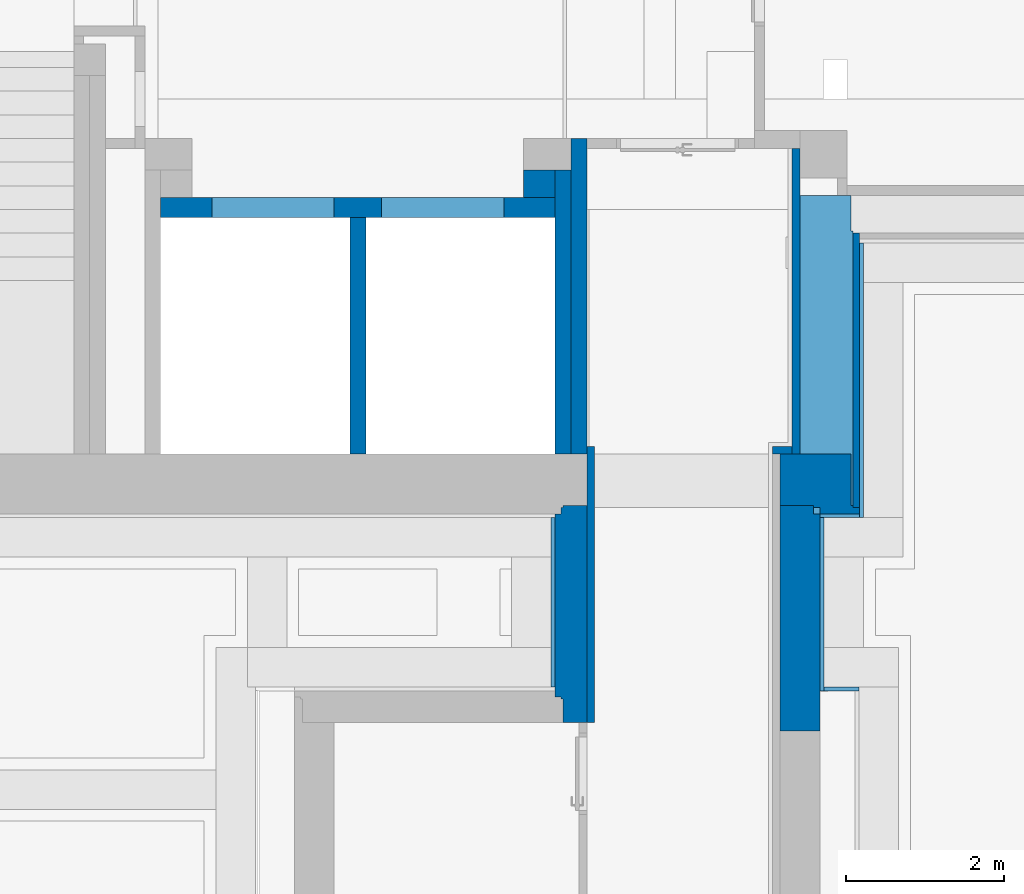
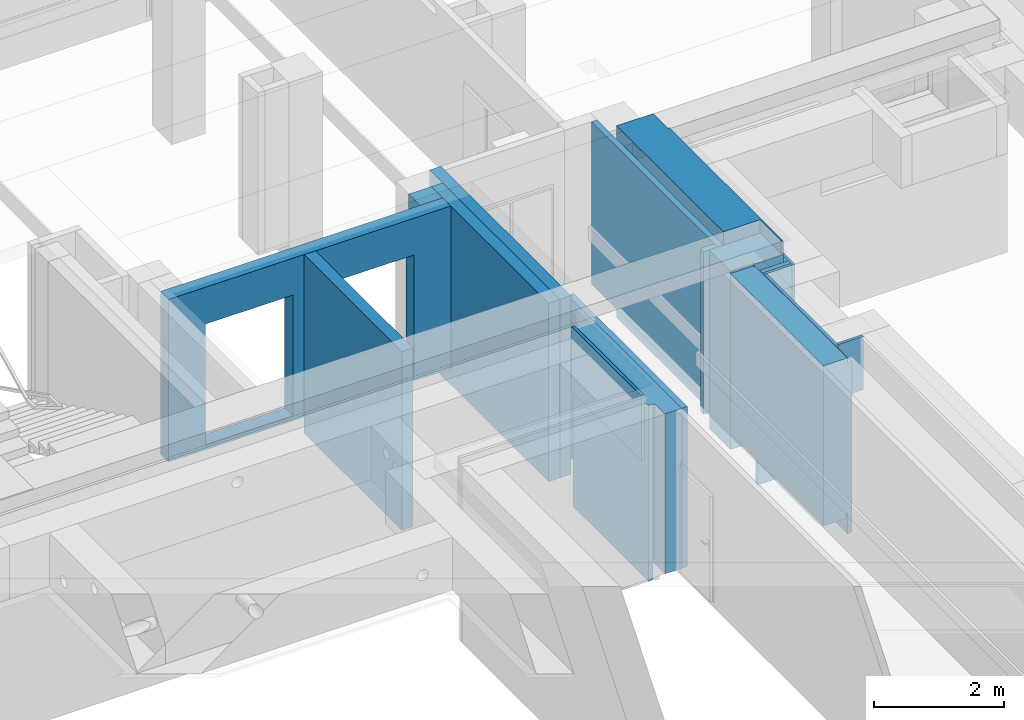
# One storey, part 18 of 84: 18 walls, 2 openings.
"""IFC4 building model written with IfcOpenShell, lengths in metres."""

from ifc_helpers import new_model, entity, si_unit, converted_unit, derived_unit, frame, frame_2d, origin, origin_with_axes, place, context, subcontext, project, spatial, polyline, rectangle, outline, extrude, clip, bounded_halfspace, material, layer, layer_set, layer_usage, element, save


model = new_model("IFC4")

# Units and contexts
model_context = context("Model", 3, precision=1e-05, world=origin())
body_context = subcontext(model_context, "Body", "Model", "MODEL_VIEW")
ifc_project = project(units=[si_unit("LENGTHUNIT", "METRE"), si_unit("AREAUNIT", "SQUARE_METRE"), si_unit("VOLUMEUNIT", "CUBIC_METRE"), si_unit("MASSUNIT", "GRAM", prefix="KILO"), converted_unit("PLANEANGLEUNIT", "DEGREE", entity("IfcPlaneAngleMeasure", 0.0174532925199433), si_unit("PLANEANGLEUNIT", "RADIAN"), dimensions=[0, 0, 0, 0, 0, 0, 0]), derived_unit("THERMALTRANSMITTANCEUNIT", [(si_unit("POWERUNIT", "WATT"), 1), (si_unit("THERMODYNAMICTEMPERATUREUNIT", "KELVIN"), -1), (si_unit("LENGTHUNIT", "METRE"), -2)]), derived_unit("VOLUMETRICFLOWRATEUNIT", [(si_unit("LENGTHUNIT", "METRE"), 3), (converted_unit("TIMEUNIT", "hour", entity("IfcTimeMeasure", 3600.0), si_unit("TIMEUNIT", "SECOND"), dimensions=[0, 0, 1, 0, 0, 0, 0]), -1), (si_unit("LENGTHUNIT", "METRE"), -1)])], contexts=[model_context])

# Site, building, storey
site_placement = place(None, origin())
site = spatial("IfcSite", under=ifc_project, at=site_placement, Name="3. ASŘ", CompositionType="ELEMENT")
building_placement = place(site_placement, origin())
building = spatial("IfcBuilding", under=site, at=building_placement, Name="Pavilon C", CompositionType="ELEMENT")
storey_placement = place(building_placement, frame((0.0, 0.0, -3.3)))
storey = spatial("IfcBuildingStorey", under=building, at=storey_placement, Name="Půdorys 1.PP", CompositionType="ELEMENT", Elevation=-3.3)

# Walls
ifc_material_1 = material(Name="ZELEZOBETONOVÁ KCE")
ifc_layer_1 = layer(ifc_material_1, 0.2)
ifc_layer_set_1 = layer_set([ifc_layer_1])
ifc_layer_usage_1 = layer_usage(ifc_layer_set_1, "AXIS2", "POSITIVE", 0.0)
wall_1_placement = place(storey_placement, frame((38.15, -3.8, -0.4), z_axis=(0.0, 0.0, 1.0), x_axis=(0.0, 1.0, 0.0)))
element("IfcWall", 1, at=wall_1_placement, inside=storey, material=ifc_layer_usage_1, Name="ZELEZOBETONOVÁ KCE", context=body_context, shape_type="SweptSolid", body=[
    extrude(rectangle(XDim=3.0, YDim=0.2, at=frame_2d((1.5, 0.1), x_axis=(1.0, 0.0))), origin_with_axes(), (0.0, 0.0, 1.0), 3.35),
])
ifc_material_2 = material(Name="ZDIVO Z CDm")
ifc_layer_2 = layer(ifc_material_2, 0.35)
ifc_layer_set_2 = layer_set([ifc_layer_2])
ifc_layer_usage_2 = layer_usage(ifc_layer_set_2, "AXIS2", "POSITIVE", 0.0)
wall_2_placement = place(storey_placement, frame((40.55, -0.200000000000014, -0.1), z_axis=(0.0, 0.0, 1.0), x_axis=(-1.0, 0.0, 0.0)))
element("IfcWall", 2, at=wall_2_placement, inside=storey, material=ifc_layer_usage_2, Name="ZDIVO Z CDm", context=body_context, shape_type="SweptSolid", body=[
    extrude(rectangle(XDim=0.4, YDim=0.35, at=frame_2d((0.2, 0.175), x_axis=(1.0, 0.0))), origin_with_axes(), (0.0, 0.0, 1.0), 3.05),
])

# Wall, openings
ifc_material_3 = material(Name="ZDIVO Z CDm")
ifc_layer_3 = layer(ifc_material_3, 0.25)
ifc_layer_set_3 = layer_set([ifc_layer_3])
ifc_layer_usage_3 = layer_usage(ifc_layer_set_3, "AXIS2", "POSITIVE", 0.0)
wall_3_placement = place(storey_placement, frame((40.55, -0.550000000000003, -0.1), z_axis=(0.0, 0.0, 1.0), x_axis=(-1.0, 0.0, 0.0)))
wall_3 = element("IfcWall", 3, at=wall_3_placement, inside=storey, material=ifc_layer_usage_3, Name="ZDIVO Z CDm", context=body_context, shape_type="SweptSolid", body=[
    extrude(rectangle(XDim=5.0, YDim=0.25, at=frame_2d((2.5, 0.125), x_axis=(1.0, 0.0))), origin_with_axes(), (0.0, 0.0, 1.0), 3.05),
])
opening_1_placement = place(wall_3_placement, frame((0.65, 0.0, 0.1), z_axis=(0.0, 1.0, 0.0), x_axis=(0.0, 0.0, 1.0)))
element("IfcOpeningElement", 4, at=opening_1_placement, cuts=wall_3, Name="Dveřní otvor", ObjectType="Opening", context=body_context, shape_type="SweptSolid", body=[
    extrude(outline(polyline([(0.0, 1.55), (2.26, 1.55), (2.26, 0.0), (0.0, 0.0), (0.0, 1.55)])), origin_with_axes(), (0.0, 0.0, 1.0), 0.25),
])
opening_2_placement = place(wall_3_placement, frame((2.8, 0.0, 0.1), z_axis=(0.0, 1.0, 0.0), x_axis=(0.0, 0.0, 1.0)))
element("IfcOpeningElement", 5, at=opening_2_placement, cuts=wall_3, Name="Dveřní otvor", ObjectType="Opening", context=body_context, shape_type="SweptSolid", body=[
    extrude(outline(polyline([(0.0, 1.55), (2.26, 1.55), (2.26, 0.0), (0.0, 0.0), (0.0, 1.55)])), origin_with_axes(), (0.0, 0.0, 1.0), 0.25),
])

# Walls
ifc_material_4 = material(Name="ZELEZOBETONOVÁ KCE")
ifc_layer_4 = layer(ifc_material_4, 0.2)
ifc_layer_set_4 = layer_set([ifc_layer_4])
ifc_layer_usage_4 = layer_usage(ifc_layer_set_4, "AXIS2", "POSITIVE", 0.0)
wall_4_placement = place(storey_placement, frame((40.75, -3.8, -0.4), z_axis=(0.0, 0.0, 1.0), x_axis=(0.0, 1.0, 0.0)))
element("IfcWall", 6, at=wall_4_placement, inside=storey, material=ifc_layer_usage_4, Name="ZELEZOBETONOVÁ KCE", context=body_context, shape_type="SweptSolid", body=[
    extrude(rectangle(XDim=3.59999999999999, YDim=0.2, at=frame_2d((1.79999999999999, 0.1), x_axis=(1.0, 0.0))), origin_with_axes(), (0.0, 0.0, 1.0), 3.35),
])
ifc_material_5 = material(Name="ZELEZOBETONOVÁ KCE")
ifc_layer_5 = layer(ifc_material_5, 0.2)
ifc_layer_set_5 = layer_set([ifc_layer_5])
ifc_layer_usage_5 = layer_usage(ifc_layer_set_5, "AXIS2", "POSITIVE", 0.0)
wall_5_placement = place(storey_placement, frame((40.95, -3.8, -0.4), z_axis=(0.0, 0.0, 1.0), x_axis=(0.0, 1.0, 0.0)))
element("IfcWall", 7, at=wall_5_placement, inside=storey, material=ifc_layer_usage_5, Name="ZELEZOBETONOVÁ KCE", context=body_context, shape_type="SweptSolid", body=[
    extrude(rectangle(XDim=4.0, YDim=0.2, at=frame_2d((2.0, 0.1), x_axis=(1.0, 0.0))), origin_with_axes(), (0.0, 0.0, 1.0), 3.35),
])
ifc_material_6 = material(Name="PÓROBETONOVÉ ZDIVO")
ifc_layer_6 = layer(ifc_material_6, 0.1)
ifc_layer_set_6 = layer_set([ifc_layer_6])
ifc_layer_usage_6 = layer_usage(ifc_layer_set_6, "AXIS2", "POSITIVE", 0.0)
wall_6_placement = place(storey_placement, frame((43.55, 0.07499999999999, -0.1), z_axis=(0.0, 0.0, 1.0), x_axis=(0.0, -1.0, 0.0)))
element("IfcWall", 8, at=wall_6_placement, inside=storey, material=ifc_layer_usage_6, Name="PÓROBETONOVÉ ZDIVO", context=body_context, shape_type="SweptSolid", body=[
    extrude(rectangle(XDim=3.875, YDim=0.1, at=frame_2d((1.9375, 0.05), x_axis=(1.0, 0.0))), origin_with_axes(), (0.0, 0.0, 1.0), 3.05),
])
ifc_material_7 = material(Name="PÓROBETONOVÉ ZDIVO")
ifc_layer_7 = layer(ifc_material_7, 0.1)
ifc_layer_set_7 = layer_set([ifc_layer_7])
ifc_layer_usage_7 = layer_usage(ifc_layer_set_7, "AXIS2", "POSITIVE", 0.0)
wall_7_placement = place(storey_placement, frame((43.3, -3.80000000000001, -0.1)))
element("IfcWall", 9, at=wall_7_placement, inside=storey, material=ifc_layer_usage_7, Name="PÓROBETONOVÉ ZDIVO", context=body_context, shape_type="SweptSolid", body=[
    extrude(rectangle(XDim=0.25, YDim=0.1, at=frame_2d((0.125, 0.05), x_axis=(1.0, 0.0))), origin_with_axes(), (0.0, 0.0, 1.0), 3.05),
])
ifc_material_8 = material(Name="PÓROBETONOVÉ ZDIVO")
ifc_layer_8 = layer(ifc_material_8, 0.1)
ifc_layer_set_8 = layer_set([ifc_layer_8])
ifc_layer_usage_8 = layer_usage(ifc_layer_set_8, "AXIS2", "POSITIVE", 0.0)
wall_8_placement = place(storey_placement, frame((40.95, -3.70000000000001, -0.1), z_axis=(0.0, 0.0, 1.0), x_axis=(0.0, -1.0, 0.0)))
element("IfcWall", 10, at=wall_8_placement, inside=storey, material=ifc_layer_usage_8, Name="PÓROBETONOVÉ ZDIVO", context=body_context, shape_type="SweptSolid", body=[
    extrude(rectangle(XDim=3.50000000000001, YDim=0.1, at=frame_2d((1.75, 0.05), x_axis=(1.0, 0.0))), origin_with_axes(), (0.0, 0.0, 1.0), 3.0),
])
ifc_material_9 = material(Name="ZELEZOBETONOVÁ KCE")
ifc_layer_9 = layer(ifc_material_9, 0.3)
ifc_material_10 = material(Name="LIGNOPOR")
ifc_layer_10 = layer(ifc_material_10, 0.025)
ifc_material_11 = material(Name="PÓROBETONOVÉ ZDIVO")
ifc_layer_11 = layer(ifc_material_11, 0.08)
ifc_layer_set_9 = layer_set([ifc_layer_9, ifc_layer_10, ifc_layer_11])
ifc_layer_usage_9 = layer_usage(ifc_layer_set_9, "AXIS2", "POSITIVE", 0.0)
wall_9_placement = place(storey_placement, frame((40.95, -7.20000000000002, -0.4), z_axis=(0.0, 0.0, 1.0), x_axis=(0.0, 1.0, 0.0)))
element("IfcWall", 11, at=wall_9_placement, inside=storey, material=ifc_layer_usage_9, Name="ZELEZOBETONOVÁ KCE", context=body_context, shape_type="Clipping", body=[
    clip(clip(extrude(outline(polyline([(0.0, -0.405), (2.75000000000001, -0.405), (2.75000000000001, -0.105), (2.72500000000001, -0.105), (2.72500000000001, -0.08), (2.64500000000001, -0.08), (2.64500000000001, 0.0), (0.325, 0.0), (0.325, -0.08), (0.3, -0.08), (0.3, -0.105), (0.0, -0.105), (0.0, -0.405)])), frame((0.0, 0.405, 0.0), z_axis=(0.0, 0.0, 1.0), x_axis=(1.0, 0.0, 0.0)), (0.0, 0.0, 1.0), 3.3), bounded_halfspace(frame((1.37500000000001, 0.15, 0.3), z_axis=(0.0, 0.0, 1.0), x_axis=(0.0, -1.0, 0.0)), True, origin_with_axes(), polyline([(0.0, 0.3), (0.0, 0.0), (2.75000000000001, 0.0), (2.75000000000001, 0.3), (0.0, 0.3)]))), bounded_halfspace(frame((1.50333333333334, 0.316666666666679, 0.4), z_axis=(0.0, 0.0, 1.0), x_axis=(-1.0, 0.0, 0.0)), True, origin_with_axes(), polyline([(2.64500000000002, 0.325000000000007), (0.325, 0.325000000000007), (0.3, 0.325000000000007), (0.3, 0.300000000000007), (2.72500000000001, 0.300000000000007), (2.72500000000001, 0.325000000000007), (2.64500000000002, 0.325000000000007)]))),
])
ifc_material_12 = material(Name="ZELEZOBETONOVÁ KCE")
ifc_layer_12 = layer(ifc_material_12, 0.65)
ifc_material_13 = material(Name="LIGNOPOR")
ifc_layer_13 = layer(ifc_material_13, 0.025)
ifc_material_14 = material(Name="PÓROBETONOVÉ ZDIVO")
ifc_layer_14 = layer(ifc_material_14, 0.08)
ifc_layer_set_10 = layer_set([ifc_layer_12, ifc_layer_13, ifc_layer_14])
ifc_layer_usage_10 = layer_usage(ifc_layer_set_10, "AXIS2", "POSITIVE", 0.0)
wall_10_placement = place(storey_placement, frame((43.65, -0.520000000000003, -1.15), z_axis=(0.0, 0.0, 1.0), x_axis=(0.0, -1.0, 0.0)))
element("IfcWall", 12, at=wall_10_placement, inside=storey, material=ifc_layer_usage_10, Name="ZELEZOBETONOVÁ KCE", context=body_context, shape_type="Clipping", body=[
    clip(clip(clip(extrude(outline(polyline([(-3.95500000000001, 0.0), (-0.675, 0.0), (-0.675, 0.65), (-0.025, 0.65), (-0.025, 0.675), (0.0, 0.675), (0.0, 0.755), (-3.48000000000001, 0.755), (-3.48000000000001, 0.675), (-3.50500000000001, 0.675), (-3.50500000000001, 0.65), (-3.95500000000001, 0.65), (-3.95500000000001, 0.0)])), frame((3.95500000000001, 0.0, 0.0), z_axis=(0.0, 0.0, 1.0), x_axis=(1.0, 0.0, 0.0)), (0.0, 0.0, 1.0), 4.1), bounded_halfspace(frame((1.64, 0.325, 0.750000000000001), z_axis=(0.0, 0.0, 1.0), x_axis=(0.0, -1.0, 0.0)), True, origin_with_axes(), polyline([(2.27373675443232e-16, 0.65), (2.27373675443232e-16, 0.0), (3.28000000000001, 0.0), (3.28000000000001, 0.65), (2.27373675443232e-16, 0.65)]))), bounded_halfspace(frame((2.08583333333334, 0.662499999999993, 1.15), z_axis=(0.0, 0.0, 1.0), x_axis=(-1.0, 0.0, 0.0)), True, origin_with_axes(), polyline([(0.475, 0.675), (0.45, 0.675), (0.45, 0.65), (3.28000000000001, 0.65), (3.93000000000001, 0.65), (3.93000000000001, 0.675), (0.475, 0.675)]))), bounded_halfspace(frame((2.558, 0.706999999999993, 3.95), z_axis=(0.0, 0.0, -1.0), x_axis=(1.0, -2.91038304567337e-13, 0.0)), True, origin_with_axes(), polyline([(3.93000000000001, 0.675), (3.95500000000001, 0.674999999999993), (3.95500000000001, 0.754999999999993), (0.475, 0.754999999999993), (0.475, 0.674999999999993), (3.93000000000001, 0.675)]))),
])
ifc_material_15 = material(Name="ZELEZOBETONOVÁ KCE")
ifc_layer_15 = layer(ifc_material_15, 0.65)
ifc_material_16 = material(Name="LIGNOPOR")
ifc_layer_16 = layer(ifc_material_16, 0.025)
ifc_material_17 = material(Name="PÓROBETONOVÉ ZDIVO")
ifc_layer_17 = layer(ifc_material_17, 0.08)
ifc_layer_set_11 = layer_set([ifc_layer_15, ifc_layer_16, ifc_layer_17])
ifc_layer_usage_11 = layer_usage(ifc_layer_set_11, "AXIS2", "POSITIVE", 0.0)
wall_11_placement = place(storey_placement, frame((44.3, -3.80000000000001, -1.15), z_axis=(0.0, 0.0, 1.0), x_axis=(-1.0, 0.0, 0.0)))
element("IfcWall", 13, at=wall_11_placement, inside=storey, material=ifc_layer_usage_11, Name="ZELEZOBETONOVÁ KCE", context=body_context, shape_type="Clipping", body=[
    clip(clip(clip(clip(clip(extrude(outline(polyline([(-0.9, -0.755), (0.0, -0.755), (0.0, -0.105), (-0.4, -0.105), (-0.4, -0.08), (-0.425, -0.08), (-0.425, 0.0), (-1.005, 0.0), (-1.005, -0.08), (-0.925, -0.08), (-0.925, -0.105), (-0.9, -0.105), (-0.9, -0.755)])), frame((0.9, 0.755, 0.0), z_axis=(0.0, 0.0, 1.0), x_axis=(1.0, 0.0, 0.0)), (0.0, 0.0, 1.0), 4.1), bounded_halfspace(frame((0.45, 0.325, 0.750000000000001), z_axis=(0.0, 0.0, 1.0), x_axis=(0.0, -1.0, 0.0)), True, origin_with_axes(), polyline([(0.0, 0.65), (0.0, 0.0), (0.9, 0.0), (0.9, 0.65), (0.0, 0.65)]))), bounded_halfspace(frame((0.215833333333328, 0.6625, 1.15), z_axis=(0.0, 0.0, 1.0), x_axis=(-1.0, 0.0, 0.0)), True, origin_with_axes(), polyline([(0.394999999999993, 0.675), (-0.025, 0.675), (-0.025, 0.65), (0.0, 0.65), (0.474999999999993, 0.65), (0.474999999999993, 0.675), (0.394999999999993, 0.675)]))), bounded_halfspace(frame((0.487499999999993, 0.6625, 4.05), z_axis=(0.0, 0.0, 1.0), x_axis=(2.91038304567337e-13, 1.0, 0.0)), True, origin_with_axes(), polyline([(0.499999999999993, 0.65), (0.5, 0.675), (0.474999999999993, 0.675), (0.474999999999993, 0.65), (0.499999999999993, 0.65)]))), bounded_halfspace(frame((0.434999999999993, 0.715, 0.750000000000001), z_axis=(0.0, 0.0, -1.0), x_axis=(1.0, 0.0, 0.0)), True, origin_with_axes(), polyline([(0.394999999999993, 0.675), (0.474999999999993, 0.675), (0.474999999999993, 0.755), (0.394999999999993, 0.755), (0.394999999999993, 0.675)]))), bounded_halfspace(frame((0.110999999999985, 0.707, 3.95), z_axis=(0.0, -2.8421709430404e-15, -1.0), x_axis=(1.0, 0.0, -1.08273178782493e-15)), True, origin_with_axes(), polyline([(-0.025, 0.675), (0.394999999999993, 0.675), (0.394999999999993, 0.755), (-0.105000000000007, 0.755), (-0.105000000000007, 0.675), (-0.025, 0.675)]))),
])
ifc_material_18 = material(Name="ZELEZOBETONOVÁ KCE")
ifc_layer_18 = layer(ifc_material_18, 0.4)
ifc_material_19 = material(Name="LIGNOPOR")
ifc_layer_19 = layer(ifc_material_19, 0.025)
ifc_material_20 = material(Name="PÓROBETONOVÉ ZDIVO")
ifc_layer_20 = layer(ifc_material_20, 0.08)
ifc_layer_set_12 = layer_set([ifc_layer_18, ifc_layer_19, ifc_layer_20])
ifc_layer_usage_12 = layer_usage(ifc_layer_set_12, "AXIS2", "POSITIVE", 0.0)
wall_12_placement = place(storey_placement, frame((43.4, -4.45000000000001, -0.4), z_axis=(0.0, 0.0, 1.0), x_axis=(0.0, -1.0, 0.0)))
element("IfcWall", 14, at=wall_12_placement, inside=storey, material=ifc_layer_usage_12, Name="ZELEZOBETONOVÁ KCE", context=body_context, shape_type="Clipping", body=[
    clip(clip(clip(clip(extrude(rectangle(XDim=2.855, YDim=0.505, at=frame_2d((1.4275, 0.2525), x_axis=(1.0, 0.0))), origin_with_axes(), (0.0, 0.0, 1.0), 3.3), bounded_halfspace(frame((1.4275, 0.2, 0.3), z_axis=(0.0, 0.0, 1.0), x_axis=(0.0, -1.0, 0.0)), True, origin_with_axes(), polyline([(0.0, 0.4), (0.0, 0.0), (2.855, 0.0), (2.855, 0.4), (0.0, 0.4)]))), bounded_halfspace(frame((1.147, 0.415000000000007, 0.4), z_axis=(0.0, 0.0, 1.0), x_axis=(-1.0, 0.0, 0.0)), True, origin_with_axes(), polyline([(0.025, 0.425000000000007), (0.0, 0.425000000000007), (0.0, 0.4), (2.855, 0.4), (2.855, 0.425000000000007), (0.025, 0.425000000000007)]))), bounded_halfspace(frame((0.0125, 0.465000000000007, 0.4), z_axis=(0.0, 0.0, -1.0), x_axis=(-1.0, 0.0, 0.0)), True, origin_with_axes(), polyline([(0.025, 0.505000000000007), (0.0, 0.505000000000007), (0.0, 0.425000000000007), (0.025, 0.425000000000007), (0.025, 0.505000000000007)]))), bounded_halfspace(frame((1.44, 0.465000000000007, 3.2), z_axis=(0.0, 0.0, -1.0), x_axis=(0.0, -1.0, 0.0)), True, origin_with_axes(), polyline([(0.025, 0.505000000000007), (0.025, 0.425000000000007), (2.855, 0.425000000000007), (2.855, 0.505000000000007), (0.025, 0.505000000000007)]))),
])
ifc_material_21 = material(Name="ZELEZOBETONOVÁ KCE")
ifc_layer_21 = layer(ifc_material_21, 0.65)
ifc_material_22 = material(Name="LIGNOPOR")
ifc_layer_22 = layer(ifc_material_22, 0.025)
ifc_layer_set_13 = layer_set([ifc_layer_21, ifc_layer_22])
ifc_layer_usage_13 = layer_usage(ifc_layer_set_13, "AXIS2", "POSITIVE", 0.0)
wall_13_placement = place(storey_placement, frame((43.65, -0.520000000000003, 2.95), z_axis=(0.0, 0.0, 1.0), x_axis=(0.0, -1.0, 0.0)))
element("IfcWall", 15, at=wall_13_placement, inside=storey, material=ifc_layer_usage_13, context=body_context, shape_type="SweptSolid", body=[
    extrude(outline(polyline([(-3.93000000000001, 0.0), (-0.650000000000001, 0.0), (-0.650000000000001, 0.65), (0.0, 0.65), (0.0, 0.675), (-3.48000000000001, 0.675), (-3.48000000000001, 0.65), (-3.93000000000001, 0.65), (-3.93000000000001, 0.0)])), frame((3.93000000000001, 0.0, 0.0), z_axis=(0.0, 0.0, 1.0), x_axis=(1.0, 0.0, 0.0)), (0.0, 0.0, 1.0), 0.25),
])
ifc_material_23 = material(Name="PERIMETR")
ifc_layer_23 = layer(ifc_material_23, 0.05)
ifc_layer_set_14 = layer_set([ifc_layer_23])
ifc_layer_usage_14 = layer_usage(ifc_layer_set_14, "AXIS2", "POSITIVE", 0.0)
wall_14_placement = place(storey_placement, frame((40.495, -4.605, 1.8), z_axis=(0.0, 0.0, 1.0), x_axis=(0.0, -1.0, 0.0)))
element("IfcWall", 16, at=wall_14_placement, inside=storey, material=ifc_layer_usage_14, Name="PERIMETR", context=body_context, shape_type="SweptSolid", body=[
    extrude(rectangle(XDim=2.145, YDim=0.05, at=frame_2d((1.0725, 0.025), x_axis=(1.0, 0.0))), origin_with_axes(), (0.0, 0.0, 1.0), 1.22),
])
ifc_material_24 = material(Name="PERIMETR")
ifc_layer_24 = layer(ifc_material_24, 0.05)
ifc_layer_set_15 = layer_set([ifc_layer_24])
ifc_layer_usage_15 = layer_usage(ifc_layer_set_15, "AXIS2", "POSITIVE", 0.0)
wall_15_placement = place(storey_placement, frame((44.455, -4.60500000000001, 1.8), z_axis=(0.0, 0.0, 1.0), x_axis=(0.0, 1.0, 0.0)))
element("IfcWall", 17, at=wall_15_placement, inside=storey, material=ifc_layer_usage_15, Name="PERIMETR", context=body_context, shape_type="SweptSolid", body=[
    extrude(rectangle(XDim=3.48000000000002, YDim=0.05, at=frame_2d((1.74000000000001, 0.025), x_axis=(1.0, 0.0))), origin_with_axes(), (0.0, 0.0, 1.0), 1.0),
])
ifc_material_25 = material(Name="PERIMETR")
ifc_layer_25 = layer(ifc_material_25, 0.05)
ifc_layer_set_16 = layer_set([ifc_layer_25])
ifc_layer_usage_16 = layer_usage(ifc_layer_set_16, "AXIS2", "POSITIVE", 0.0)
wall_16_placement = place(storey_placement, frame((43.905, -4.60500000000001, 1.8)))
element("IfcWall", 18, at=wall_16_placement, inside=storey, material=ifc_layer_usage_16, Name="PERIMETR", context=body_context, shape_type="SweptSolid", body=[
    extrude(rectangle(XDim=0.5, YDim=0.05, at=frame_2d((0.25, 0.025), x_axis=(1.0, 0.0))), origin_with_axes(), (0.0, 0.0, 1.0), 1.0),
])
ifc_material_26 = material(Name="PERIMETR")
ifc_layer_26 = layer(ifc_material_26, 0.05)
ifc_layer_set_17 = layer_set([ifc_layer_26])
ifc_layer_usage_17 = layer_usage(ifc_layer_set_17, "AXIS2", "POSITIVE", 0.0)
wall_17_placement = place(storey_placement, frame((43.955, -6.80000000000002, 1.8), z_axis=(0.0, 0.0, 1.0), x_axis=(0.0, 1.0, 0.0)))
element("IfcWall", 19, at=wall_17_placement, inside=storey, material=ifc_layer_usage_17, Name="PERIMETR", context=body_context, shape_type="SweptSolid", body=[
    extrude(rectangle(XDim=2.19500000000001, YDim=0.05, at=frame_2d((1.0975, 0.025), x_axis=(1.0, 0.0))), origin_with_axes(), (0.0, 0.0, 1.0), 1.0),
])
ifc_material_27 = material(Name="PERIMETR")
ifc_layer_27 = layer(ifc_material_27, 0.05)
ifc_layer_set_18 = layer_set([ifc_layer_27])
ifc_layer_usage_18 = layer_usage(ifc_layer_set_18, "AXIS2", "POSITIVE", 0.0)
wall_18_placement = place(storey_placement, frame((44.4, -6.75000000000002, 1.8), z_axis=(0.0, 0.0, 1.0), x_axis=(-1.0, 0.0, 0.0)))
element("IfcWall", 20, at=wall_18_placement, inside=storey, material=ifc_layer_usage_18, Name="PERIMETR", context=body_context, shape_type="SweptSolid", body=[
    extrude(rectangle(XDim=0.445, YDim=0.05, at=frame_2d((0.2225, 0.025), x_axis=(1.0, 0.0))), origin_with_axes(), (0.0, 0.0, 1.0), 1.0),
])

save(model, "model.ifc")
